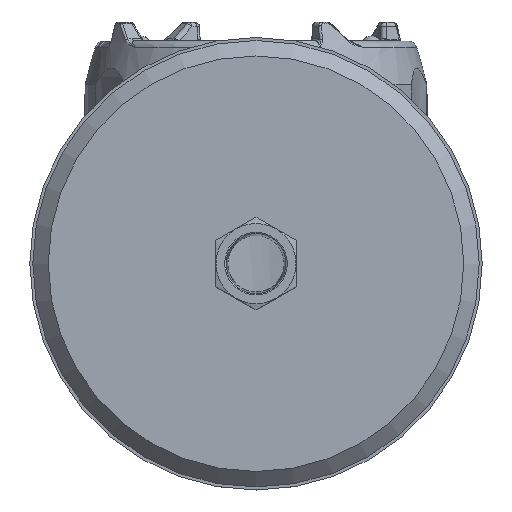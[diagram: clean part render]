
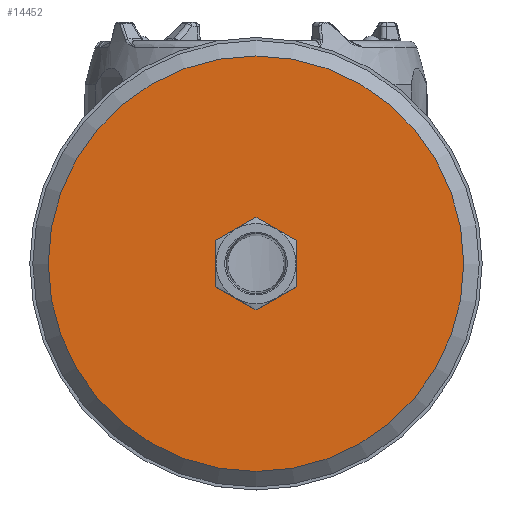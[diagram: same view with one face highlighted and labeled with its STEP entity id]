
A CAD part, top view. The second image highlights one B-rep face of the part: STEP entity #14452.
In plain terms, the highlighted planar face has unit normal (0, 0, 1).
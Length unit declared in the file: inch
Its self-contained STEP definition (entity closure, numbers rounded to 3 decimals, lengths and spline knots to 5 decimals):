
#868 = EDGE_CURVE ( 'NONE', #18703, #18703, #30761, .T. ) ;
#2791 = CARTESIAN_POINT ( 'NONE',  ( 0., 0., 5.45791 ) ) ;
#3864 = DIRECTION ( 'NONE',  ( 0., 1., 0. ) ) ;
#7449 = CARTESIAN_POINT ( 'NONE',  ( 0., 0., 5.45791 ) ) ;
#9253 = CARTESIAN_POINT ( 'NONE',  ( 0., 2.755, 5.45791 ) ) ;
#10634 = DIRECTION ( 'NONE',  ( 0., 0., -1. ) ) ;
#13432 = CARTESIAN_POINT ( 'NONE',  ( 0.4615, 0., 5.45791 ) ) ;
#13902 = EDGE_LOOP ( 'NONE', ( #16079 ) ) ;
#14452 = ADVANCED_FACE ( 'NONE', ( #16257, #19490 ), #38222, .F. ) ;
#15816 = CARTESIAN_POINT ( 'NONE',  ( 0., 0.4615, 5.45791 ) ) ;
#16079 = ORIENTED_EDGE ( 'NONE', *, *, #38241, .F. ) ;
#16257 = FACE_BOUND ( 'NONE', #13902, .T. ) ;
#16886 = EDGE_LOOP ( 'NONE', ( #30796 ) ) ;
#18703 = VERTEX_POINT ( 'NONE', #9253 ) ;
#19490 = FACE_OUTER_BOUND ( 'NONE', #16886, .T. ) ;
#20477 = AXIS2_PLACEMENT_3D ( 'NONE', #7449, #24989, #3864 ) ;
#24989 = DIRECTION ( 'NONE',  ( 0., 0., 1. ) ) ;
#30761 = CIRCLE ( 'NONE', #20477, 2.755 ) ;
#30796 = ORIENTED_EDGE ( 'NONE', *, *, #868, .T. ) ;
#30943 = VERTEX_POINT ( 'NONE', #15816 ) ;
#34612 = DIRECTION ( 'NONE',  ( 0., -1., 0. ) ) ;
#34785 = AXIS2_PLACEMENT_3D ( 'NONE', #13432, #10634, #34612 ) ;
#35748 = AXIS2_PLACEMENT_3D ( 'NONE', #2791, #36417, #39038 ) ;
#36417 = DIRECTION ( 'NONE',  ( 0., 0., 1. ) ) ;
#37685 = CIRCLE ( 'NONE', #35748, 0.4615 ) ;
#38222 = PLANE ( 'NONE',  #34785 ) ;
#38241 = EDGE_CURVE ( 'NONE', #30943, #30943, #37685, .T. ) ;
#39038 = DIRECTION ( 'NONE',  ( 0., 1., 0. ) ) ;
